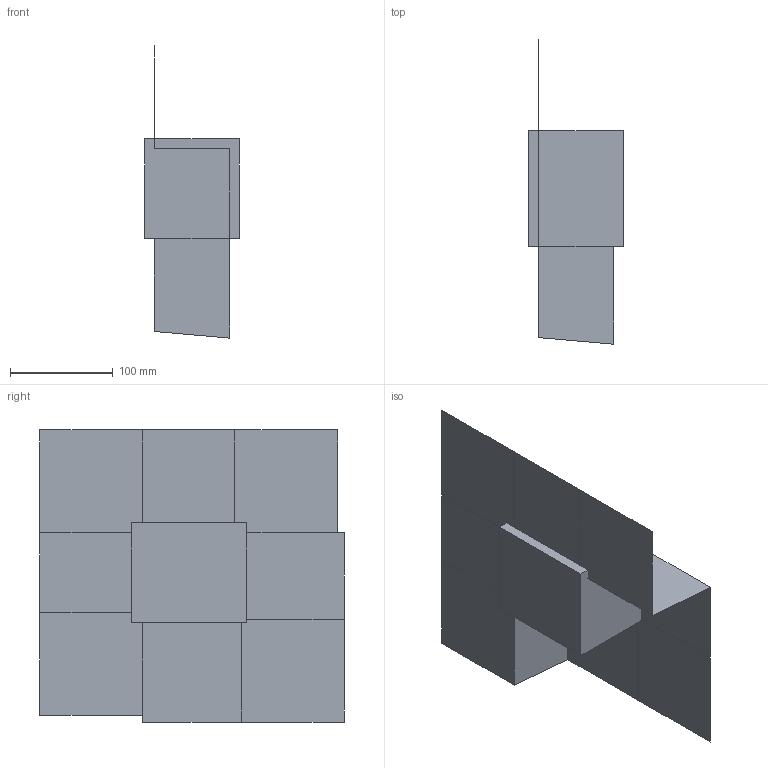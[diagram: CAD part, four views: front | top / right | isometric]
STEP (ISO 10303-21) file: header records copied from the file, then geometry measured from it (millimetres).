
FILE_DESCRIPTION(('CATIA V5 STEP Exchange'),'2;1');
FILE_NAME('C:\_Andres\UNIVERSIDAD\IQS\ASIGNATURAS\DAO\EXF\EXF-15161c\1original\Aranda_Gil_Ej02-moldes_v2.stp','2016-03-04T15:45:31+00:00',('none'),('none'),'CATIA Version 5 Release 20 SP 1 (IN-10)','CATIA V5 STEP AP203','none');
FILE_SCHEMA(('CONFIG_CONTROL_DESIGN'));
Length unit declared in the file: millimetre
Products named in the file (1): Aranda_Gil_Ej02-moldes_v2
Bounding box: 92 x 296.04 x 284.04 mm (x, y, z)
Volume: 2128441.8 mm3; surface area: 290766.7 mm2
Topology: 3 solids, 7 shells, 45 faces, 118 edges, 83 vertices
Faces by surface type: plane 41, cylinder 4
Entity records: 1101 total; most frequent: ORIENTED_EDGE 198, CARTESIAN_POINT 179, DIRECTION 147, EDGE_CURVE 83, VECTOR 73, LINE 73, VERTEX_POINT 56, EDGE_LOOP 49
